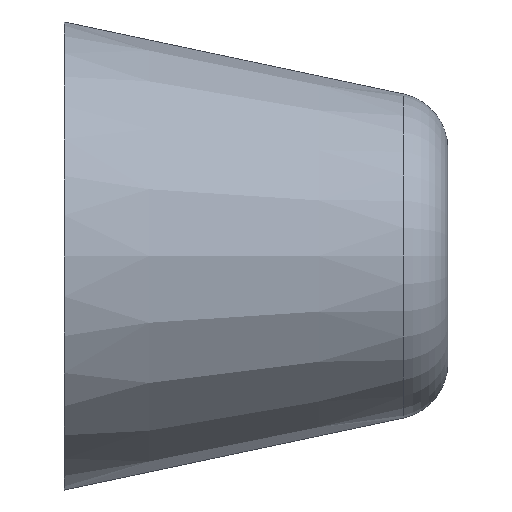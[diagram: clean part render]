
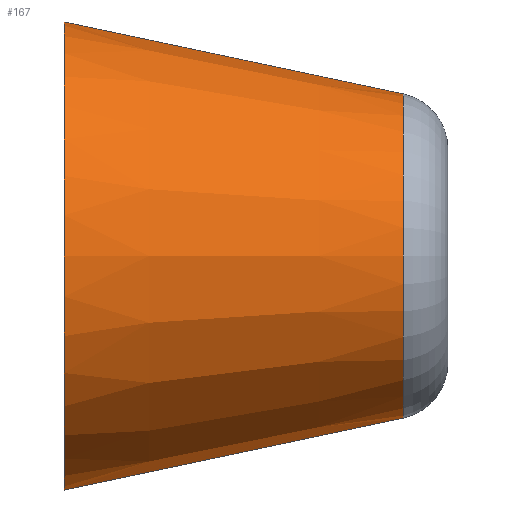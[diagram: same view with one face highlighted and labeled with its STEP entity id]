
A CAD part, left-side view. The second image highlights one B-rep face of the part: STEP entity #167.
In plain terms, the highlighted conical face has half-angle 11.98 degrees and reference radius 8.15 mm.
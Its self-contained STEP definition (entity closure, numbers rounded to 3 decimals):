
#48 = ORIENTED_EDGE ( 'NONE', *, *, #572, .T. ) ;
#83 = CARTESIAN_POINT ( 'NONE',  ( 0., 0., 8.15 ) ) ;
#131 = ORIENTED_EDGE ( 'NONE', *, *, #300, .F. ) ;
#137 = VERTEX_POINT ( 'NONE', #290 ) ;
#148 = DIRECTION ( 'NONE',  ( 0., 1., 0. ) ) ;
#150 = AXIS2_PLACEMENT_3D ( 'NONE', #573, #148, #527 ) ;
#158 = VERTEX_POINT ( 'NONE', #288 ) ;
#165 = ORIENTED_EDGE ( 'NONE', *, *, #447, .T. ) ;
#167 = ADVANCED_FACE ( 'NONE', ( #518 ), #277, .T. ) ;
#184 = CIRCLE ( 'NONE', #368, 8.654 ) ;
#200 = VERTEX_POINT ( 'NONE', #225 ) ;
#224 = CARTESIAN_POINT ( 'NONE',  ( 0., 2.377, 0. ) ) ;
#225 = CARTESIAN_POINT ( 'NONE',  ( 0., 20.5, 12.5 ) ) ;
#248 = AXIS2_PLACEMENT_3D ( 'NONE', #528, #286, #479 ) ;
#274 = DIRECTION ( 'NONE',  ( 0., 1., 0. ) ) ;
#277 = CONICAL_SURFACE ( 'NONE', #150, 8.15, 0.209 ) ;
#286 = DIRECTION ( 'NONE',  ( 0., -1., 0. ) ) ;
#288 = CARTESIAN_POINT ( 'NONE',  ( 0., 2.377, -8.654 ) ) ;
#290 = CARTESIAN_POINT ( 'NONE',  ( 0., 20.5, -12.5 ) ) ;
#300 = EDGE_CURVE ( 'NONE', #158, #137, #318, .T. ) ;
#303 = DIRECTION ( 'NONE',  ( 0., 0.978, 0.208 ) ) ;
#306 = DIRECTION ( 'NONE',  ( 0., 0.978, -0.208 ) ) ;
#318 = LINE ( 'NONE', #506, #333 ) ;
#333 = VECTOR ( 'NONE', #306, 1000. ) ;
#351 = VECTOR ( 'NONE', #303, 1000. ) ;
#368 = AXIS2_PLACEMENT_3D ( 'NONE', #224, #274, #505 ) ;
#370 = EDGE_CURVE ( 'NONE', #200, #137, #525, .T. ) ;
#395 = ORIENTED_EDGE ( 'NONE', *, *, #370, .T. ) ;
#446 = CARTESIAN_POINT ( 'NONE',  ( 0., 2.377, 8.654 ) ) ;
#447 = EDGE_CURVE ( 'NONE', #485, #200, #451, .T. ) ;
#451 = LINE ( 'NONE', #83, #351 ) ;
#479 = DIRECTION ( 'NONE',  ( 0., 0., -1. ) ) ;
#485 = VERTEX_POINT ( 'NONE', #446 ) ;
#505 = DIRECTION ( 'NONE',  ( 0., 0., -1. ) ) ;
#506 = CARTESIAN_POINT ( 'NONE',  ( 0., 0., -8.15 ) ) ;
#518 = FACE_OUTER_BOUND ( 'NONE', #535, .T. ) ;
#525 = CIRCLE ( 'NONE', #248, 12.5 ) ;
#527 = DIRECTION ( 'NONE',  ( 0., 0., 1. ) ) ;
#528 = CARTESIAN_POINT ( 'NONE',  ( 0., 20.5, 0. ) ) ;
#535 = EDGE_LOOP ( 'NONE', ( #131, #48, #165, #395 ) ) ;
#572 = EDGE_CURVE ( 'NONE', #158, #485, #184, .T. ) ;
#573 = CARTESIAN_POINT ( 'NONE',  ( 0., 0., 0. ) ) ;
